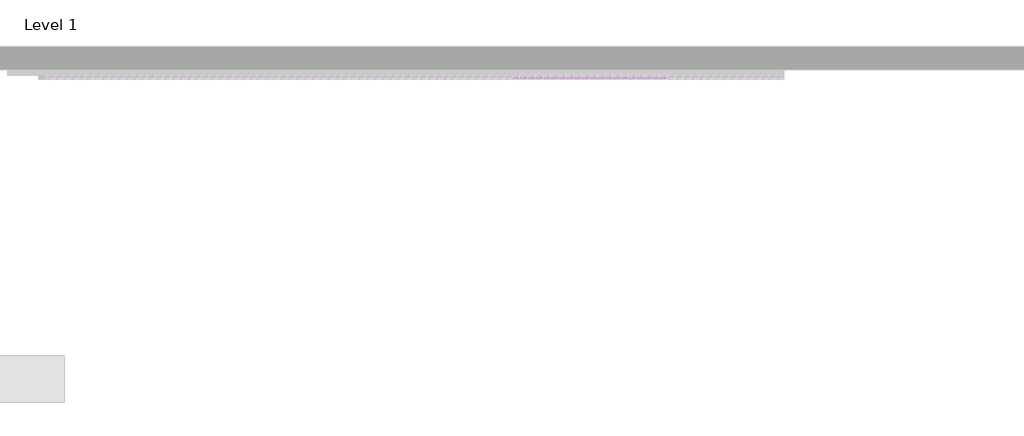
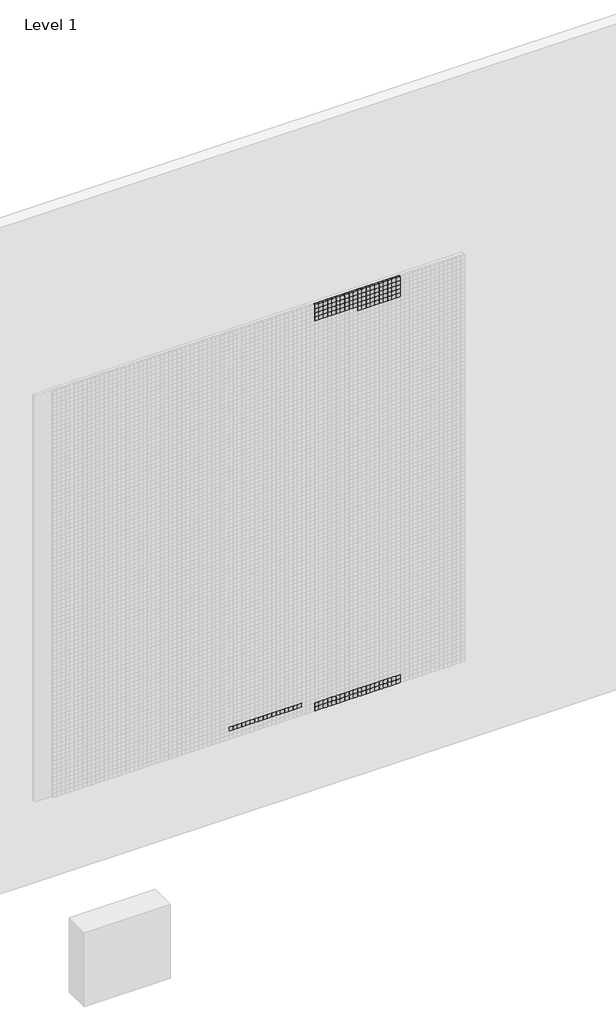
# One storey, part 48 of 71: 147 proxies.
"""IFC4 building model written with IfcOpenShell, lengths in millimetres."""

from ifc_helpers import new_model, si_unit, origin, place, context, project, spatial, transform, mapped, element, save
from components import generic_models_afde289c

model = new_model("IFC4")

# Units and contexts
model_context = context("Model", 3, world=origin())
ifc_project = project(units=[si_unit("LENGTHUNIT", "METRE", prefix="MILLI")], contexts=[model_context])

# Site, building, storey
site = spatial("IfcSite", under=ifc_project)
building = spatial("IfcBuilding", under=site)
storey = spatial("IfcBuildingStorey", under=building, Name="Level 1", Elevation=0.0)

# Proxies
placement = place(None, origin())
generic_models_shape = generic_models_afde289c(model_context)
element("IfcBuildingElementProxy", 1, Name="Pixel_M : Pixel_M", ObjectType="Pixel_M : Pixel_M", at=placement, inside=storey, context=model_context, shape_type="MappedRepresentation", body=[
    mapped(generic_models_shape, transform((8962.4280941, -75.0, 1016.3566215), x_axis=(1.0, 0.0, 0.0), y_axis=(0.0, 0.0, 1.0), z_axis=(0.0, -1.0, 0.0))),
])
element("IfcBuildingElementProxy", 2, Name="Pixel_M : Pixel_M", ObjectType="Pixel_M : Pixel_M", at=placement, inside=storey, context=model_context, shape_type="MappedRepresentation", body=[
    mapped(generic_models_shape, transform((8912.4280941, -75.0, 1016.3566215), x_axis=(1.0, 0.0, 0.0), y_axis=(0.0, 0.0, 1.0), z_axis=(0.0, -1.0, 0.0))),
])
element("IfcBuildingElementProxy", 3, Name="Pixel_M : Pixel_M", ObjectType="Pixel_M : Pixel_M", at=placement, inside=storey, context=model_context, shape_type="MappedRepresentation", body=[
    mapped(generic_models_shape, transform((8862.4280941, -75.0, 1016.3566215), x_axis=(1.0, 0.0, 0.0), y_axis=(0.0, 0.0, 1.0), z_axis=(0.0, -1.0, 0.0))),
])
element("IfcBuildingElementProxy", 4, Name="Pixel_M : Pixel_M", ObjectType="Pixel_M : Pixel_M", at=placement, inside=storey, context=model_context, shape_type="MappedRepresentation", body=[
    mapped(generic_models_shape, transform((8812.4280941, -75.0, 1016.3566215), x_axis=(1.0, 0.0, 0.0), y_axis=(0.0, 0.0, 1.0), z_axis=(0.0, -1.0, 0.0))),
])
element("IfcBuildingElementProxy", 5, Name="Pixel_M : Pixel_M", ObjectType="Pixel_M : Pixel_M", at=placement, inside=storey, context=model_context, shape_type="MappedRepresentation", body=[
    mapped(generic_models_shape, transform((8762.4280941, -75.0, 1016.3566215), x_axis=(1.0, 0.0, 0.0), y_axis=(0.0, 0.0, 1.0), z_axis=(0.0, -1.0, 0.0))),
])
element("IfcBuildingElementProxy", 6, Name="Pixel_M : Pixel_M", ObjectType="Pixel_M : Pixel_M", at=placement, inside=storey, context=model_context, shape_type="MappedRepresentation", body=[
    mapped(generic_models_shape, transform((8712.4280941, -75.0, 1016.3566215), x_axis=(1.0, 0.0, 0.0), y_axis=(0.0, 0.0, 1.0), z_axis=(0.0, -1.0, 0.0))),
])
element("IfcBuildingElementProxy", 7, Name="Pixel_M : Pixel_M", ObjectType="Pixel_M : Pixel_M", at=placement, inside=storey, context=model_context, shape_type="MappedRepresentation", body=[
    mapped(generic_models_shape, transform((8662.4280941, -75.0, 1016.3566215), x_axis=(1.0, 0.0, 0.0), y_axis=(0.0, 0.0, 1.0), z_axis=(0.0, -1.0, 0.0))),
])
element("IfcBuildingElementProxy", 8, Name="Pixel_M : Pixel_M", ObjectType="Pixel_M : Pixel_M", at=placement, inside=storey, context=model_context, shape_type="MappedRepresentation", body=[
    mapped(generic_models_shape, transform((8612.4280941, -75.0, 1016.3566215), x_axis=(1.0, 0.0, 0.0), y_axis=(0.0, 0.0, 1.0), z_axis=(0.0, -1.0, 0.0))),
])
element("IfcBuildingElementProxy", 9, Name="Pixel_M : Pixel_M", ObjectType="Pixel_M : Pixel_M", at=placement, inside=storey, context=model_context, shape_type="MappedRepresentation", body=[
    mapped(generic_models_shape, transform((8562.4280941, -75.0, 1016.3566215), x_axis=(1.0, 0.0, 0.0), y_axis=(0.0, 0.0, 1.0), z_axis=(0.0, -1.0, 0.0))),
])
element("IfcBuildingElementProxy", 10, Name="Pixel_M : Pixel_M", ObjectType="Pixel_M : Pixel_M", at=placement, inside=storey, context=model_context, shape_type="MappedRepresentation", body=[
    mapped(generic_models_shape, transform((8512.4280941, -75.0, 1016.3566215), x_axis=(1.0, 0.0, 0.0), y_axis=(0.0, 0.0, 1.0), z_axis=(0.0, -1.0, 0.0))),
])
element("IfcBuildingElementProxy", 11, Name="Pixel_M : Pixel_M", ObjectType="Pixel_M : Pixel_M", at=placement, inside=storey, context=model_context, shape_type="MappedRepresentation", body=[
    mapped(generic_models_shape, transform((8462.4280941, -75.0, 1016.3566215), x_axis=(1.0, 0.0, 0.0), y_axis=(0.0, 0.0, 1.0), z_axis=(0.0, -1.0, 0.0))),
])
element("IfcBuildingElementProxy", 12, Name="Pixel_M : Pixel_M", ObjectType="Pixel_M : Pixel_M", at=placement, inside=storey, context=model_context, shape_type="MappedRepresentation", body=[
    mapped(generic_models_shape, transform((8412.4280941, -75.0, 1016.3566215), x_axis=(1.0, 0.0, 0.0), y_axis=(0.0, 0.0, 1.0), z_axis=(0.0, -1.0, 0.0))),
])
element("IfcBuildingElementProxy", 13, Name="Pixel_M : Pixel_M", ObjectType="Pixel_M : Pixel_M", at=placement, inside=storey, context=model_context, shape_type="MappedRepresentation", body=[
    mapped(generic_models_shape, transform((8362.4280941, -75.0, 1016.3566215), x_axis=(1.0, 0.0, 0.0), y_axis=(0.0, 0.0, 1.0), z_axis=(0.0, -1.0, 0.0))),
])
element("IfcBuildingElementProxy", 14, Name="Pixel_M : Pixel_M", ObjectType="Pixel_M : Pixel_M", at=placement, inside=storey, context=model_context, shape_type="MappedRepresentation", body=[
    mapped(generic_models_shape, transform((8312.4280941, -75.0, 1016.3566215), x_axis=(1.0, 0.0, 0.0), y_axis=(0.0, 0.0, 1.0), z_axis=(0.0, -1.0, 0.0))),
])
element("IfcBuildingElementProxy", 15, Name="Pixel_M : Pixel_M", ObjectType="Pixel_M : Pixel_M", at=placement, inside=storey, context=model_context, shape_type="MappedRepresentation", body=[
    mapped(generic_models_shape, transform((8262.4280941, -75.0, 1016.3566215), x_axis=(1.0, 0.0, 0.0), y_axis=(0.0, 0.0, 1.0), z_axis=(0.0, -1.0, 0.0))),
])
element("IfcBuildingElementProxy", 16, Name="Pixel_M : Pixel_M", ObjectType="Pixel_M : Pixel_M", at=placement, inside=storey, context=model_context, shape_type="MappedRepresentation", body=[
    mapped(generic_models_shape, transform((8212.4280941, -75.0, 1016.3566215), x_axis=(1.0, 0.0, 0.0), y_axis=(0.0, 0.0, 1.0), z_axis=(0.0, -1.0, 0.0))),
])
element("IfcBuildingElementProxy", 17, Name="Pixel_M : Pixel_M", ObjectType="Pixel_M : Pixel_M", at=placement, inside=storey, context=model_context, shape_type="MappedRepresentation", body=[
    mapped(generic_models_shape, transform((8162.4280941, -75.0, 1016.3566215), x_axis=(1.0, 0.0, 0.0), y_axis=(0.0, 0.0, 1.0), z_axis=(0.0, -1.0, 0.0))),
])
element("IfcBuildingElementProxy", 18, Name="Pixel_M : Pixel_M", ObjectType="Pixel_M : Pixel_M", at=placement, inside=storey, context=model_context, shape_type="MappedRepresentation", body=[
    mapped(generic_models_shape, transform((8112.4280941, -75.0, 1016.3566215), x_axis=(1.0, 0.0, 0.0), y_axis=(0.0, 0.0, 1.0), z_axis=(0.0, -1.0, 0.0))),
])
element("IfcBuildingElementProxy", 19, Name="Pixel_M : Pixel_M", ObjectType="Pixel_M : Pixel_M", at=placement, inside=storey, context=model_context, shape_type="MappedRepresentation", body=[
    mapped(generic_models_shape, transform((8062.4280941, -75.0, 1016.3566215), x_axis=(1.0, 0.0, 0.0), y_axis=(0.0, 0.0, 1.0), z_axis=(0.0, -1.0, 0.0))),
])
element("IfcBuildingElementProxy", 20, Name="Pixel_M : Pixel_M", ObjectType="Pixel_M : Pixel_M", at=placement, inside=storey, context=model_context, shape_type="MappedRepresentation", body=[
    mapped(generic_models_shape, transform((8012.4280941, -75.0, 1016.3566215), x_axis=(1.0, 0.0, 0.0), y_axis=(0.0, 0.0, 1.0), z_axis=(0.0, -1.0, 0.0))),
])
element("IfcBuildingElementProxy", 21, Name="Pixel_M : Pixel_M", ObjectType="Pixel_M : Pixel_M", at=placement, inside=storey, context=model_context, shape_type="MappedRepresentation", body=[
    mapped(generic_models_shape, transform((8962.4280941, -75.0, 1066.3566215), x_axis=(1.0, 0.0, 0.0), y_axis=(0.0, 0.0, 1.0), z_axis=(0.0, -1.0, 0.0))),
])
element("IfcBuildingElementProxy", 22, Name="Pixel_M : Pixel_M", ObjectType="Pixel_M : Pixel_M", at=placement, inside=storey, context=model_context, shape_type="MappedRepresentation", body=[
    mapped(generic_models_shape, transform((8912.4280941, -75.0, 1066.3566215), x_axis=(1.0, 0.0, 0.0), y_axis=(0.0, 0.0, 1.0), z_axis=(0.0, -1.0, 0.0))),
])
element("IfcBuildingElementProxy", 23, Name="Pixel_M : Pixel_M", ObjectType="Pixel_M : Pixel_M", at=placement, inside=storey, context=model_context, shape_type="MappedRepresentation", body=[
    mapped(generic_models_shape, transform((8862.4280941, -75.0, 1066.3566215), x_axis=(1.0, 0.0, 0.0), y_axis=(0.0, 0.0, 1.0), z_axis=(0.0, -1.0, 0.0))),
])
element("IfcBuildingElementProxy", 24, Name="Pixel_M : Pixel_M", ObjectType="Pixel_M : Pixel_M", at=placement, inside=storey, context=model_context, shape_type="MappedRepresentation", body=[
    mapped(generic_models_shape, transform((8812.4280941, -75.0, 1066.3566215), x_axis=(1.0, 0.0, 0.0), y_axis=(0.0, 0.0, 1.0), z_axis=(0.0, -1.0, 0.0))),
])
element("IfcBuildingElementProxy", 25, Name="Pixel_M : Pixel_M", ObjectType="Pixel_M : Pixel_M", at=placement, inside=storey, context=model_context, shape_type="MappedRepresentation", body=[
    mapped(generic_models_shape, transform((8762.4280941, -75.0, 1066.3566215), x_axis=(1.0, 0.0, 0.0), y_axis=(0.0, 0.0, 1.0), z_axis=(0.0, -1.0, 0.0))),
])
element("IfcBuildingElementProxy", 26, Name="Pixel_M : Pixel_M", ObjectType="Pixel_M : Pixel_M", at=placement, inside=storey, context=model_context, shape_type="MappedRepresentation", body=[
    mapped(generic_models_shape, transform((8712.4280941, -75.0, 1066.3566215), x_axis=(1.0, 0.0, 0.0), y_axis=(0.0, 0.0, 1.0), z_axis=(0.0, -1.0, 0.0))),
])
element("IfcBuildingElementProxy", 27, Name="Pixel_M : Pixel_M", ObjectType="Pixel_M : Pixel_M", at=placement, inside=storey, context=model_context, shape_type="MappedRepresentation", body=[
    mapped(generic_models_shape, transform((8662.4280941, -75.0, 1066.3566215), x_axis=(1.0, 0.0, 0.0), y_axis=(0.0, 0.0, 1.0), z_axis=(0.0, -1.0, 0.0))),
])
element("IfcBuildingElementProxy", 28, Name="Pixel_M : Pixel_M", ObjectType="Pixel_M : Pixel_M", at=placement, inside=storey, context=model_context, shape_type="MappedRepresentation", body=[
    mapped(generic_models_shape, transform((8612.4280941, -75.0, 1066.3566215), x_axis=(1.0, 0.0, 0.0), y_axis=(0.0, 0.0, 1.0), z_axis=(0.0, -1.0, 0.0))),
])
element("IfcBuildingElementProxy", 29, Name="Pixel_M : Pixel_M", ObjectType="Pixel_M : Pixel_M", at=placement, inside=storey, context=model_context, shape_type="MappedRepresentation", body=[
    mapped(generic_models_shape, transform((8562.4280941, -75.0, 1066.3566215), x_axis=(1.0, 0.0, 0.0), y_axis=(0.0, 0.0, 1.0), z_axis=(0.0, -1.0, 0.0))),
])
element("IfcBuildingElementProxy", 30, Name="Pixel_M : Pixel_M", ObjectType="Pixel_M : Pixel_M", at=placement, inside=storey, context=model_context, shape_type="MappedRepresentation", body=[
    mapped(generic_models_shape, transform((8512.4280941, -75.0, 1066.3566215), x_axis=(1.0, 0.0, 0.0), y_axis=(0.0, 0.0, 1.0), z_axis=(0.0, -1.0, 0.0))),
])
element("IfcBuildingElementProxy", 31, Name="Pixel_M : Pixel_M", ObjectType="Pixel_M : Pixel_M", at=placement, inside=storey, context=model_context, shape_type="MappedRepresentation", body=[
    mapped(generic_models_shape, transform((8462.4280941, -75.0, 1066.3566215), x_axis=(1.0, 0.0, 0.0), y_axis=(0.0, 0.0, 1.0), z_axis=(0.0, -1.0, 0.0))),
])
element("IfcBuildingElementProxy", 32, Name="Pixel_M : Pixel_M", ObjectType="Pixel_M : Pixel_M", at=placement, inside=storey, context=model_context, shape_type="MappedRepresentation", body=[
    mapped(generic_models_shape, transform((8412.4280941, -75.0, 1066.3566215), x_axis=(1.0, 0.0, 0.0), y_axis=(0.0, 0.0, 1.0), z_axis=(0.0, -1.0, 0.0))),
])
element("IfcBuildingElementProxy", 33, Name="Pixel_M : Pixel_M", ObjectType="Pixel_M : Pixel_M", at=placement, inside=storey, context=model_context, shape_type="MappedRepresentation", body=[
    mapped(generic_models_shape, transform((8362.4280941, -75.0, 1066.3566215), x_axis=(1.0, 0.0, 0.0), y_axis=(0.0, 0.0, 1.0), z_axis=(0.0, -1.0, 0.0))),
])
element("IfcBuildingElementProxy", 34, Name="Pixel_M : Pixel_M", ObjectType="Pixel_M : Pixel_M", at=placement, inside=storey, context=model_context, shape_type="MappedRepresentation", body=[
    mapped(generic_models_shape, transform((8312.4280941, -75.0, 1066.3566215), x_axis=(1.0, 0.0, 0.0), y_axis=(0.0, 0.0, 1.0), z_axis=(0.0, -1.0, 0.0))),
])
element("IfcBuildingElementProxy", 35, Name="Pixel_M : Pixel_M", ObjectType="Pixel_M : Pixel_M", at=placement, inside=storey, context=model_context, shape_type="MappedRepresentation", body=[
    mapped(generic_models_shape, transform((8262.4280941, -75.0, 1066.3566215), x_axis=(1.0, 0.0, 0.0), y_axis=(0.0, 0.0, 1.0), z_axis=(0.0, -1.0, 0.0))),
])
element("IfcBuildingElementProxy", 36, Name="Pixel_M : Pixel_M", ObjectType="Pixel_M : Pixel_M", at=placement, inside=storey, context=model_context, shape_type="MappedRepresentation", body=[
    mapped(generic_models_shape, transform((8212.4280941, -75.0, 1066.3566215), x_axis=(1.0, 0.0, 0.0), y_axis=(0.0, 0.0, 1.0), z_axis=(0.0, -1.0, 0.0))),
])
element("IfcBuildingElementProxy", 37, Name="Pixel_M : Pixel_M", ObjectType="Pixel_M : Pixel_M", at=placement, inside=storey, context=model_context, shape_type="MappedRepresentation", body=[
    mapped(generic_models_shape, transform((8162.4280941, -75.0, 1066.3566215), x_axis=(1.0, 0.0, 0.0), y_axis=(0.0, 0.0, 1.0), z_axis=(0.0, -1.0, 0.0))),
])
element("IfcBuildingElementProxy", 38, Name="Pixel_M : Pixel_M", ObjectType="Pixel_M : Pixel_M", at=placement, inside=storey, context=model_context, shape_type="MappedRepresentation", body=[
    mapped(generic_models_shape, transform((8112.4280941, -75.0, 1066.3566215), x_axis=(1.0, 0.0, 0.0), y_axis=(0.0, 0.0, 1.0), z_axis=(0.0, -1.0, 0.0))),
])
element("IfcBuildingElementProxy", 39, Name="Pixel_M : Pixel_M", ObjectType="Pixel_M : Pixel_M", at=placement, inside=storey, context=model_context, shape_type="MappedRepresentation", body=[
    mapped(generic_models_shape, transform((8062.4280941, -75.0, 1066.3566215), x_axis=(1.0, 0.0, 0.0), y_axis=(0.0, 0.0, 1.0), z_axis=(0.0, -1.0, 0.0))),
])
element("IfcBuildingElementProxy", 40, Name="Pixel_M : Pixel_M", ObjectType="Pixel_M : Pixel_M", at=placement, inside=storey, context=model_context, shape_type="MappedRepresentation", body=[
    mapped(generic_models_shape, transform((8012.4280941, -75.0, 1066.3566215), x_axis=(1.0, 0.0, 0.0), y_axis=(0.0, 0.0, 1.0), z_axis=(0.0, -1.0, 0.0))),
])
element("IfcBuildingElementProxy", 41, Name="Pixel_M : Pixel_M", ObjectType="Pixel_M : Pixel_M", at=placement, inside=storey, context=model_context, shape_type="MappedRepresentation", body=[
    mapped(generic_models_shape, transform((8962.4280941, -75.0, 5966.3566215), x_axis=(1.0, 0.0, 0.0), y_axis=(0.0, 0.0, 1.0), z_axis=(0.0, -1.0, 0.0))),
])
element("IfcBuildingElementProxy", 42, Name="Pixel_M : Pixel_M", ObjectType="Pixel_M : Pixel_M", at=placement, inside=storey, context=model_context, shape_type="MappedRepresentation", body=[
    mapped(generic_models_shape, transform((8912.4280941, -75.0, 5966.3566215), x_axis=(1.0, 0.0, 0.0), y_axis=(0.0, 0.0, 1.0), z_axis=(0.0, -1.0, 0.0))),
])
element("IfcBuildingElementProxy", 43, Name="Pixel_M : Pixel_M", ObjectType="Pixel_M : Pixel_M", at=placement, inside=storey, context=model_context, shape_type="MappedRepresentation", body=[
    mapped(generic_models_shape, transform((8862.4280941, -75.0, 5966.3566215), x_axis=(1.0, 0.0, 0.0), y_axis=(0.0, 0.0, 1.0), z_axis=(0.0, -1.0, 0.0))),
])
element("IfcBuildingElementProxy", 44, Name="Pixel_M : Pixel_M", ObjectType="Pixel_M : Pixel_M", at=placement, inside=storey, context=model_context, shape_type="MappedRepresentation", body=[
    mapped(generic_models_shape, transform((8812.4280941, -75.0, 5966.3566215), x_axis=(1.0, 0.0, 0.0), y_axis=(0.0, 0.0, 1.0), z_axis=(0.0, -1.0, 0.0))),
])
element("IfcBuildingElementProxy", 45, Name="Pixel_M : Pixel_M", ObjectType="Pixel_M : Pixel_M", at=placement, inside=storey, context=model_context, shape_type="MappedRepresentation", body=[
    mapped(generic_models_shape, transform((8762.4280941, -75.0, 5966.3566215), x_axis=(1.0, 0.0, 0.0), y_axis=(0.0, 0.0, 1.0), z_axis=(0.0, -1.0, 0.0))),
])
element("IfcBuildingElementProxy", 46, Name="Pixel_M : Pixel_M", ObjectType="Pixel_M : Pixel_M", at=placement, inside=storey, context=model_context, shape_type="MappedRepresentation", body=[
    mapped(generic_models_shape, transform((8712.4280941, -75.0, 5966.3566215), x_axis=(1.0, 0.0, 0.0), y_axis=(0.0, 0.0, 1.0), z_axis=(0.0, -1.0, 0.0))),
])
element("IfcBuildingElementProxy", 47, Name="Pixel_M : Pixel_M", ObjectType="Pixel_M : Pixel_M", at=placement, inside=storey, context=model_context, shape_type="MappedRepresentation", body=[
    mapped(generic_models_shape, transform((8662.4280941, -75.0, 5966.3566215), x_axis=(1.0, 0.0, 0.0), y_axis=(0.0, 0.0, 1.0), z_axis=(0.0, -1.0, 0.0))),
])
element("IfcBuildingElementProxy", 48, Name="Pixel_M : Pixel_M", ObjectType="Pixel_M : Pixel_M", at=placement, inside=storey, context=model_context, shape_type="MappedRepresentation", body=[
    mapped(generic_models_shape, transform((8612.4280941, -75.0, 5966.3566215), x_axis=(1.0, 0.0, 0.0), y_axis=(0.0, 0.0, 1.0), z_axis=(0.0, -1.0, 0.0))),
])
element("IfcBuildingElementProxy", 49, Name="Pixel_M : Pixel_M", ObjectType="Pixel_M : Pixel_M", at=placement, inside=storey, context=model_context, shape_type="MappedRepresentation", body=[
    mapped(generic_models_shape, transform((8562.4280941, -75.0, 5966.3566215), x_axis=(1.0, 0.0, 0.0), y_axis=(0.0, 0.0, 1.0), z_axis=(0.0, -1.0, 0.0))),
])
element("IfcBuildingElementProxy", 50, Name="Pixel_M : Pixel_M", ObjectType="Pixel_M : Pixel_M", at=placement, inside=storey, context=model_context, shape_type="MappedRepresentation", body=[
    mapped(generic_models_shape, transform((8512.4280941, -75.0, 5966.3566215), x_axis=(1.0, 0.0, 0.0), y_axis=(0.0, 0.0, 1.0), z_axis=(0.0, -1.0, 0.0))),
])
element("IfcBuildingElementProxy", 51, Name="Pixel_M : Pixel_M", ObjectType="Pixel_M : Pixel_M", at=placement, inside=storey, context=model_context, shape_type="MappedRepresentation", body=[
    mapped(generic_models_shape, transform((8462.4280941, -75.0, 5966.3566215), x_axis=(1.0, 0.0, 0.0), y_axis=(0.0, 0.0, 1.0), z_axis=(0.0, -1.0, 0.0))),
])
element("IfcBuildingElementProxy", 52, Name="Pixel_M : Pixel_M", ObjectType="Pixel_M : Pixel_M", at=placement, inside=storey, context=model_context, shape_type="MappedRepresentation", body=[
    mapped(generic_models_shape, transform((8412.4280941, -75.0, 5966.3566215), x_axis=(1.0, 0.0, 0.0), y_axis=(0.0, 0.0, 1.0), z_axis=(0.0, -1.0, 0.0))),
])
element("IfcBuildingElementProxy", 53, Name="Pixel_M : Pixel_M", ObjectType="Pixel_M : Pixel_M", at=placement, inside=storey, context=model_context, shape_type="MappedRepresentation", body=[
    mapped(generic_models_shape, transform((8362.4280941, -75.0, 5966.3566215), x_axis=(1.0, 0.0, 0.0), y_axis=(0.0, 0.0, 1.0), z_axis=(0.0, -1.0, 0.0))),
])
element("IfcBuildingElementProxy", 54, Name="Pixel_M : Pixel_M", ObjectType="Pixel_M : Pixel_M", at=placement, inside=storey, context=model_context, shape_type="MappedRepresentation", body=[
    mapped(generic_models_shape, transform((8312.4280941, -75.0, 5966.3566215), x_axis=(1.0, 0.0, 0.0), y_axis=(0.0, 0.0, 1.0), z_axis=(0.0, -1.0, 0.0))),
])
element("IfcBuildingElementProxy", 55, Name="Pixel_M : Pixel_M", ObjectType="Pixel_M : Pixel_M", at=placement, inside=storey, context=model_context, shape_type="MappedRepresentation", body=[
    mapped(generic_models_shape, transform((8262.4280941, -75.0, 5966.3566215), x_axis=(1.0, 0.0, 0.0), y_axis=(0.0, 0.0, 1.0), z_axis=(0.0, -1.0, 0.0))),
])
element("IfcBuildingElementProxy", 56, Name="Pixel_M : Pixel_M", ObjectType="Pixel_M : Pixel_M", at=placement, inside=storey, context=model_context, shape_type="MappedRepresentation", body=[
    mapped(generic_models_shape, transform((8212.4280941, -75.0, 5966.3566215), x_axis=(1.0, 0.0, 0.0), y_axis=(0.0, 0.0, 1.0), z_axis=(0.0, -1.0, 0.0))),
])
element("IfcBuildingElementProxy", 57, Name="Pixel_M : Pixel_M", ObjectType="Pixel_M : Pixel_M", at=placement, inside=storey, context=model_context, shape_type="MappedRepresentation", body=[
    mapped(generic_models_shape, transform((8162.4280941, -75.0, 5966.3566215), x_axis=(1.0, 0.0, 0.0), y_axis=(0.0, 0.0, 1.0), z_axis=(0.0, -1.0, 0.0))),
])
element("IfcBuildingElementProxy", 58, Name="Pixel_M : Pixel_M", ObjectType="Pixel_M : Pixel_M", at=placement, inside=storey, context=model_context, shape_type="MappedRepresentation", body=[
    mapped(generic_models_shape, transform((8112.4280941, -75.0, 5966.3566215), x_axis=(1.0, 0.0, 0.0), y_axis=(0.0, 0.0, 1.0), z_axis=(0.0, -1.0, 0.0))),
])
element("IfcBuildingElementProxy", 59, Name="Pixel_M : Pixel_M", ObjectType="Pixel_M : Pixel_M", at=placement, inside=storey, context=model_context, shape_type="MappedRepresentation", body=[
    mapped(generic_models_shape, transform((8062.4280941, -75.0, 5966.3566215), x_axis=(1.0, 0.0, 0.0), y_axis=(0.0, 0.0, 1.0), z_axis=(0.0, -1.0, 0.0))),
])
element("IfcBuildingElementProxy", 60, Name="Pixel_M : Pixel_M", ObjectType="Pixel_M : Pixel_M", at=placement, inside=storey, context=model_context, shape_type="MappedRepresentation", body=[
    mapped(generic_models_shape, transform((8012.4280941, -75.0, 5966.3566215), x_axis=(1.0, 0.0, 0.0), y_axis=(0.0, 0.0, 1.0), z_axis=(0.0, -1.0, 0.0))),
])
element("IfcBuildingElementProxy", 61, Name="Pixel_M : Pixel_M", ObjectType="Pixel_M : Pixel_M", at=placement, inside=storey, context=model_context, shape_type="MappedRepresentation", body=[
    mapped(generic_models_shape, transform((8962.4280941, -75.0, 5916.3566215), x_axis=(1.0, 0.0, 0.0), y_axis=(0.0, 0.0, 1.0), z_axis=(0.0, -1.0, 0.0))),
])
element("IfcBuildingElementProxy", 62, Name="Pixel_M : Pixel_M", ObjectType="Pixel_M : Pixel_M", at=placement, inside=storey, context=model_context, shape_type="MappedRepresentation", body=[
    mapped(generic_models_shape, transform((8912.4280941, -75.0, 5916.3566215), x_axis=(1.0, 0.0, 0.0), y_axis=(0.0, 0.0, 1.0), z_axis=(0.0, -1.0, 0.0))),
])
element("IfcBuildingElementProxy", 63, Name="Pixel_M : Pixel_M", ObjectType="Pixel_M : Pixel_M", at=placement, inside=storey, context=model_context, shape_type="MappedRepresentation", body=[
    mapped(generic_models_shape, transform((8862.4280941, -75.0, 5916.3566215), x_axis=(1.0, 0.0, 0.0), y_axis=(0.0, 0.0, 1.0), z_axis=(0.0, -1.0, 0.0))),
])
element("IfcBuildingElementProxy", 64, Name="Pixel_M : Pixel_M", ObjectType="Pixel_M : Pixel_M", at=placement, inside=storey, context=model_context, shape_type="MappedRepresentation", body=[
    mapped(generic_models_shape, transform((8812.4280941, -75.0, 5916.3566215), x_axis=(1.0, 0.0, 0.0), y_axis=(0.0, 0.0, 1.0), z_axis=(0.0, -1.0, 0.0))),
])
element("IfcBuildingElementProxy", 65, Name="Pixel_M : Pixel_M", ObjectType="Pixel_M : Pixel_M", at=placement, inside=storey, context=model_context, shape_type="MappedRepresentation", body=[
    mapped(generic_models_shape, transform((8762.4280941, -75.0, 5916.3566215), x_axis=(1.0, 0.0, 0.0), y_axis=(0.0, 0.0, 1.0), z_axis=(0.0, -1.0, 0.0))),
])
element("IfcBuildingElementProxy", 66, Name="Pixel_M : Pixel_M", ObjectType="Pixel_M : Pixel_M", at=placement, inside=storey, context=model_context, shape_type="MappedRepresentation", body=[
    mapped(generic_models_shape, transform((8712.4280941, -75.0, 5916.3566215), x_axis=(1.0, 0.0, 0.0), y_axis=(0.0, 0.0, 1.0), z_axis=(0.0, -1.0, 0.0))),
])
element("IfcBuildingElementProxy", 67, Name="Pixel_M : Pixel_M", ObjectType="Pixel_M : Pixel_M", at=placement, inside=storey, context=model_context, shape_type="MappedRepresentation", body=[
    mapped(generic_models_shape, transform((8662.4280941, -75.0, 5916.3566215), x_axis=(1.0, 0.0, 0.0), y_axis=(0.0, 0.0, 1.0), z_axis=(0.0, -1.0, 0.0))),
])
element("IfcBuildingElementProxy", 68, Name="Pixel_M : Pixel_M", ObjectType="Pixel_M : Pixel_M", at=placement, inside=storey, context=model_context, shape_type="MappedRepresentation", body=[
    mapped(generic_models_shape, transform((8612.4280941, -75.0, 5916.3566215), x_axis=(1.0, 0.0, 0.0), y_axis=(0.0, 0.0, 1.0), z_axis=(0.0, -1.0, 0.0))),
])
element("IfcBuildingElementProxy", 69, Name="Pixel_M : Pixel_M", ObjectType="Pixel_M : Pixel_M", at=placement, inside=storey, context=model_context, shape_type="MappedRepresentation", body=[
    mapped(generic_models_shape, transform((8562.4280941, -75.0, 5916.3566215), x_axis=(1.0, 0.0, 0.0), y_axis=(0.0, 0.0, 1.0), z_axis=(0.0, -1.0, 0.0))),
])
element("IfcBuildingElementProxy", 70, Name="Pixel_M : Pixel_M", ObjectType="Pixel_M : Pixel_M", at=placement, inside=storey, context=model_context, shape_type="MappedRepresentation", body=[
    mapped(generic_models_shape, transform((8512.4280941, -75.0, 5916.3566215), x_axis=(1.0, 0.0, 0.0), y_axis=(0.0, 0.0, 1.0), z_axis=(0.0, -1.0, 0.0))),
])
element("IfcBuildingElementProxy", 71, Name="Pixel_M : Pixel_M", ObjectType="Pixel_M : Pixel_M", at=placement, inside=storey, context=model_context, shape_type="MappedRepresentation", body=[
    mapped(generic_models_shape, transform((8462.4280941, -75.0, 5916.3566215), x_axis=(1.0, 0.0, 0.0), y_axis=(0.0, 0.0, 1.0), z_axis=(0.0, -1.0, 0.0))),
])
element("IfcBuildingElementProxy", 72, Name="Pixel_M : Pixel_M", ObjectType="Pixel_M : Pixel_M", at=placement, inside=storey, context=model_context, shape_type="MappedRepresentation", body=[
    mapped(generic_models_shape, transform((8412.4280941, -75.0, 5916.3566215), x_axis=(1.0, 0.0, 0.0), y_axis=(0.0, 0.0, 1.0), z_axis=(0.0, -1.0, 0.0))),
])
element("IfcBuildingElementProxy", 73, Name="Pixel_M : Pixel_M", ObjectType="Pixel_M : Pixel_M", at=placement, inside=storey, context=model_context, shape_type="MappedRepresentation", body=[
    mapped(generic_models_shape, transform((8362.4280941, -75.0, 5916.3566215), x_axis=(1.0, 0.0, 0.0), y_axis=(0.0, 0.0, 1.0), z_axis=(0.0, -1.0, 0.0))),
])
element("IfcBuildingElementProxy", 74, Name="Pixel_M : Pixel_M", ObjectType="Pixel_M : Pixel_M", at=placement, inside=storey, context=model_context, shape_type="MappedRepresentation", body=[
    mapped(generic_models_shape, transform((8312.4280941, -75.0, 5916.3566215), x_axis=(1.0, 0.0, 0.0), y_axis=(0.0, 0.0, 1.0), z_axis=(0.0, -1.0, 0.0))),
])
element("IfcBuildingElementProxy", 75, Name="Pixel_M : Pixel_M", ObjectType="Pixel_M : Pixel_M", at=placement, inside=storey, context=model_context, shape_type="MappedRepresentation", body=[
    mapped(generic_models_shape, transform((8262.4280941, -75.0, 5916.3566215), x_axis=(1.0, 0.0, 0.0), y_axis=(0.0, 0.0, 1.0), z_axis=(0.0, -1.0, 0.0))),
])
element("IfcBuildingElementProxy", 76, Name="Pixel_M : Pixel_M", ObjectType="Pixel_M : Pixel_M", at=placement, inside=storey, context=model_context, shape_type="MappedRepresentation", body=[
    mapped(generic_models_shape, transform((8212.4280941, -75.0, 5916.3566215), x_axis=(1.0, 0.0, 0.0), y_axis=(0.0, 0.0, 1.0), z_axis=(0.0, -1.0, 0.0))),
])
element("IfcBuildingElementProxy", 77, Name="Pixel_M : Pixel_M", ObjectType="Pixel_M : Pixel_M", at=placement, inside=storey, context=model_context, shape_type="MappedRepresentation", body=[
    mapped(generic_models_shape, transform((8162.4280941, -75.0, 5916.3566215), x_axis=(1.0, 0.0, 0.0), y_axis=(0.0, 0.0, 1.0), z_axis=(0.0, -1.0, 0.0))),
])
element("IfcBuildingElementProxy", 78, Name="Pixel_M : Pixel_M", ObjectType="Pixel_M : Pixel_M", at=placement, inside=storey, context=model_context, shape_type="MappedRepresentation", body=[
    mapped(generic_models_shape, transform((8112.4280941, -75.0, 5916.3566215), x_axis=(1.0, 0.0, 0.0), y_axis=(0.0, 0.0, 1.0), z_axis=(0.0, -1.0, 0.0))),
])
element("IfcBuildingElementProxy", 79, Name="Pixel_M : Pixel_M", ObjectType="Pixel_M : Pixel_M", at=placement, inside=storey, context=model_context, shape_type="MappedRepresentation", body=[
    mapped(generic_models_shape, transform((8062.4280941, -75.0, 5916.3566215), x_axis=(1.0, 0.0, 0.0), y_axis=(0.0, 0.0, 1.0), z_axis=(0.0, -1.0, 0.0))),
])
element("IfcBuildingElementProxy", 80, Name="Pixel_M : Pixel_M", ObjectType="Pixel_M : Pixel_M", at=placement, inside=storey, context=model_context, shape_type="MappedRepresentation", body=[
    mapped(generic_models_shape, transform((8012.4280941, -75.0, 5916.3566215), x_axis=(1.0, 0.0, 0.0), y_axis=(0.0, 0.0, 1.0), z_axis=(0.0, -1.0, 0.0))),
])
element("IfcBuildingElementProxy", 81, Name="Pixel_M : Pixel_M", ObjectType="Pixel_M : Pixel_M", at=placement, inside=storey, context=model_context, shape_type="MappedRepresentation", body=[
    mapped(generic_models_shape, transform((8962.4280941, -75.0, 5866.3566215), x_axis=(1.0, 0.0, 0.0), y_axis=(0.0, 0.0, 1.0), z_axis=(0.0, -1.0, 0.0))),
])
element("IfcBuildingElementProxy", 82, Name="Pixel_M : Pixel_M", ObjectType="Pixel_M : Pixel_M", at=placement, inside=storey, context=model_context, shape_type="MappedRepresentation", body=[
    mapped(generic_models_shape, transform((8912.4280941, -75.0, 5866.3566215), x_axis=(1.0, 0.0, 0.0), y_axis=(0.0, 0.0, 1.0), z_axis=(0.0, -1.0, 0.0))),
])
element("IfcBuildingElementProxy", 83, Name="Pixel_M : Pixel_M", ObjectType="Pixel_M : Pixel_M", at=placement, inside=storey, context=model_context, shape_type="MappedRepresentation", body=[
    mapped(generic_models_shape, transform((8862.4280941, -75.0, 5866.3566215), x_axis=(1.0, 0.0, 0.0), y_axis=(0.0, 0.0, 1.0), z_axis=(0.0, -1.0, 0.0))),
])
element("IfcBuildingElementProxy", 84, Name="Pixel_M : Pixel_M", ObjectType="Pixel_M : Pixel_M", at=placement, inside=storey, context=model_context, shape_type="MappedRepresentation", body=[
    mapped(generic_models_shape, transform((8812.4280941, -75.0, 5866.3566215), x_axis=(1.0, 0.0, 0.0), y_axis=(0.0, 0.0, 1.0), z_axis=(0.0, -1.0, 0.0))),
])
element("IfcBuildingElementProxy", 85, Name="Pixel_M : Pixel_M", ObjectType="Pixel_M : Pixel_M", at=placement, inside=storey, context=model_context, shape_type="MappedRepresentation", body=[
    mapped(generic_models_shape, transform((8762.4280941, -75.0, 5866.3566215), x_axis=(1.0, 0.0, 0.0), y_axis=(0.0, 0.0, 1.0), z_axis=(0.0, -1.0, 0.0))),
])
element("IfcBuildingElementProxy", 86, Name="Pixel_M : Pixel_M", ObjectType="Pixel_M : Pixel_M", at=placement, inside=storey, context=model_context, shape_type="MappedRepresentation", body=[
    mapped(generic_models_shape, transform((8712.4280941, -75.0, 5866.3566215), x_axis=(1.0, 0.0, 0.0), y_axis=(0.0, 0.0, 1.0), z_axis=(0.0, -1.0, 0.0))),
])
element("IfcBuildingElementProxy", 87, Name="Pixel_M : Pixel_M", ObjectType="Pixel_M : Pixel_M", at=placement, inside=storey, context=model_context, shape_type="MappedRepresentation", body=[
    mapped(generic_models_shape, transform((8662.4280941, -75.0, 5866.3566215), x_axis=(1.0, 0.0, 0.0), y_axis=(0.0, 0.0, 1.0), z_axis=(0.0, -1.0, 0.0))),
])
element("IfcBuildingElementProxy", 88, Name="Pixel_M : Pixel_M", ObjectType="Pixel_M : Pixel_M", at=placement, inside=storey, context=model_context, shape_type="MappedRepresentation", body=[
    mapped(generic_models_shape, transform((8612.4280941, -75.0, 5866.3566215), x_axis=(1.0, 0.0, 0.0), y_axis=(0.0, 0.0, 1.0), z_axis=(0.0, -1.0, 0.0))),
])
element("IfcBuildingElementProxy", 89, Name="Pixel_M : Pixel_M", ObjectType="Pixel_M : Pixel_M", at=placement, inside=storey, context=model_context, shape_type="MappedRepresentation", body=[
    mapped(generic_models_shape, transform((8562.4280941, -75.0, 5866.3566215), x_axis=(1.0, 0.0, 0.0), y_axis=(0.0, 0.0, 1.0), z_axis=(0.0, -1.0, 0.0))),
])
element("IfcBuildingElementProxy", 90, Name="Pixel_M : Pixel_M", ObjectType="Pixel_M : Pixel_M", at=placement, inside=storey, context=model_context, shape_type="MappedRepresentation", body=[
    mapped(generic_models_shape, transform((8512.4280941, -75.0, 5866.3566215), x_axis=(1.0, 0.0, 0.0), y_axis=(0.0, 0.0, 1.0), z_axis=(0.0, -1.0, 0.0))),
])
element("IfcBuildingElementProxy", 91, Name="Pixel_M : Pixel_M", ObjectType="Pixel_M : Pixel_M", at=placement, inside=storey, context=model_context, shape_type="MappedRepresentation", body=[
    mapped(generic_models_shape, transform((8462.4280941, -75.0, 5866.3566215), x_axis=(1.0, 0.0, 0.0), y_axis=(0.0, 0.0, 1.0), z_axis=(0.0, -1.0, 0.0))),
])
element("IfcBuildingElementProxy", 92, Name="Pixel_M : Pixel_M", ObjectType="Pixel_M : Pixel_M", at=placement, inside=storey, context=model_context, shape_type="MappedRepresentation", body=[
    mapped(generic_models_shape, transform((8412.4280941, -75.0, 5866.3566215), x_axis=(1.0, 0.0, 0.0), y_axis=(0.0, 0.0, 1.0), z_axis=(0.0, -1.0, 0.0))),
])
element("IfcBuildingElementProxy", 93, Name="Pixel_M : Pixel_M", ObjectType="Pixel_M : Pixel_M", at=placement, inside=storey, context=model_context, shape_type="MappedRepresentation", body=[
    mapped(generic_models_shape, transform((8362.4280941, -75.0, 5866.3566215), x_axis=(1.0, 0.0, 0.0), y_axis=(0.0, 0.0, 1.0), z_axis=(0.0, -1.0, 0.0))),
])
element("IfcBuildingElementProxy", 94, Name="Pixel_M : Pixel_M", ObjectType="Pixel_M : Pixel_M", at=placement, inside=storey, context=model_context, shape_type="MappedRepresentation", body=[
    mapped(generic_models_shape, transform((8312.4280941, -75.0, 5866.3566215), x_axis=(1.0, 0.0, 0.0), y_axis=(0.0, 0.0, 1.0), z_axis=(0.0, -1.0, 0.0))),
])
element("IfcBuildingElementProxy", 95, Name="Pixel_M : Pixel_M", ObjectType="Pixel_M : Pixel_M", at=placement, inside=storey, context=model_context, shape_type="MappedRepresentation", body=[
    mapped(generic_models_shape, transform((8262.4280941, -75.0, 5866.3566215), x_axis=(1.0, 0.0, 0.0), y_axis=(0.0, 0.0, 1.0), z_axis=(0.0, -1.0, 0.0))),
])
element("IfcBuildingElementProxy", 96, Name="Pixel_M : Pixel_M", ObjectType="Pixel_M : Pixel_M", at=placement, inside=storey, context=model_context, shape_type="MappedRepresentation", body=[
    mapped(generic_models_shape, transform((8212.4280941, -75.0, 5866.3566215), x_axis=(1.0, 0.0, 0.0), y_axis=(0.0, 0.0, 1.0), z_axis=(0.0, -1.0, 0.0))),
])
element("IfcBuildingElementProxy", 97, Name="Pixel_M : Pixel_M", ObjectType="Pixel_M : Pixel_M", at=placement, inside=storey, context=model_context, shape_type="MappedRepresentation", body=[
    mapped(generic_models_shape, transform((8162.4280941, -75.0, 5866.3566215), x_axis=(1.0, 0.0, 0.0), y_axis=(0.0, 0.0, 1.0), z_axis=(0.0, -1.0, 0.0))),
])
element("IfcBuildingElementProxy", 98, Name="Pixel_M : Pixel_M", ObjectType="Pixel_M : Pixel_M", at=placement, inside=storey, context=model_context, shape_type="MappedRepresentation", body=[
    mapped(generic_models_shape, transform((8112.4280941, -75.0, 5866.3566215), x_axis=(1.0, 0.0, 0.0), y_axis=(0.0, 0.0, 1.0), z_axis=(0.0, -1.0, 0.0))),
])
element("IfcBuildingElementProxy", 99, Name="Pixel_M : Pixel_M", ObjectType="Pixel_M : Pixel_M", at=placement, inside=storey, context=model_context, shape_type="MappedRepresentation", body=[
    mapped(generic_models_shape, transform((8062.4280941, -75.0, 5866.3566215), x_axis=(1.0, 0.0, 0.0), y_axis=(0.0, 0.0, 1.0), z_axis=(0.0, -1.0, 0.0))),
])
element("IfcBuildingElementProxy", 100, Name="Pixel_M : Pixel_M", ObjectType="Pixel_M : Pixel_M", at=placement, inside=storey, context=model_context, shape_type="MappedRepresentation", body=[
    mapped(generic_models_shape, transform((8012.4280941, -75.0, 5866.3566215), x_axis=(1.0, 0.0, 0.0), y_axis=(0.0, 0.0, 1.0), z_axis=(0.0, -1.0, 0.0))),
])
element("IfcBuildingElementProxy", 101, Name="Pixel_M : Pixel_M", ObjectType="Pixel_M : Pixel_M", at=placement, inside=storey, context=model_context, shape_type="MappedRepresentation", body=[
    mapped(generic_models_shape, transform((8962.4280941, -75.0, 5816.3566215), x_axis=(1.0, 0.0, 0.0), y_axis=(0.0, 0.0, 1.0), z_axis=(0.0, -1.0, 0.0))),
])
element("IfcBuildingElementProxy", 102, Name="Pixel_M : Pixel_M", ObjectType="Pixel_M : Pixel_M", at=placement, inside=storey, context=model_context, shape_type="MappedRepresentation", body=[
    mapped(generic_models_shape, transform((8912.4280941, -75.0, 5816.3566215), x_axis=(1.0, 0.0, 0.0), y_axis=(0.0, 0.0, 1.0), z_axis=(0.0, -1.0, 0.0))),
])
element("IfcBuildingElementProxy", 103, Name="Pixel_M : Pixel_M", ObjectType="Pixel_M : Pixel_M", at=placement, inside=storey, context=model_context, shape_type="MappedRepresentation", body=[
    mapped(generic_models_shape, transform((8862.4280941, -75.0, 5816.3566215), x_axis=(1.0, 0.0, 0.0), y_axis=(0.0, 0.0, 1.0), z_axis=(0.0, -1.0, 0.0))),
])
element("IfcBuildingElementProxy", 104, Name="Pixel_M : Pixel_M", ObjectType="Pixel_M : Pixel_M", at=placement, inside=storey, context=model_context, shape_type="MappedRepresentation", body=[
    mapped(generic_models_shape, transform((8812.4280941, -75.0, 5816.3566215), x_axis=(1.0, 0.0, 0.0), y_axis=(0.0, 0.0, 1.0), z_axis=(0.0, -1.0, 0.0))),
])
element("IfcBuildingElementProxy", 105, Name="Pixel_M : Pixel_M", ObjectType="Pixel_M : Pixel_M", at=placement, inside=storey, context=model_context, shape_type="MappedRepresentation", body=[
    mapped(generic_models_shape, transform((8762.4280941, -75.0, 5816.3566215), x_axis=(1.0, 0.0, 0.0), y_axis=(0.0, 0.0, 1.0), z_axis=(0.0, -1.0, 0.0))),
])
element("IfcBuildingElementProxy", 106, Name="Pixel_M : Pixel_M", ObjectType="Pixel_M : Pixel_M", at=placement, inside=storey, context=model_context, shape_type="MappedRepresentation", body=[
    mapped(generic_models_shape, transform((8712.4280941, -75.0, 5816.3566215), x_axis=(1.0, 0.0, 0.0), y_axis=(0.0, 0.0, 1.0), z_axis=(0.0, -1.0, 0.0))),
])
element("IfcBuildingElementProxy", 107, Name="Pixel_M : Pixel_M", ObjectType="Pixel_M : Pixel_M", at=placement, inside=storey, context=model_context, shape_type="MappedRepresentation", body=[
    mapped(generic_models_shape, transform((8662.4280941, -75.0, 5816.3566215), x_axis=(1.0, 0.0, 0.0), y_axis=(0.0, 0.0, 1.0), z_axis=(0.0, -1.0, 0.0))),
])
element("IfcBuildingElementProxy", 108, Name="Pixel_M : Pixel_M", ObjectType="Pixel_M : Pixel_M", at=placement, inside=storey, context=model_context, shape_type="MappedRepresentation", body=[
    mapped(generic_models_shape, transform((8612.4280941, -75.0, 5816.3566215), x_axis=(1.0, 0.0, 0.0), y_axis=(0.0, 0.0, 1.0), z_axis=(0.0, -1.0, 0.0))),
])
element("IfcBuildingElementProxy", 109, Name="Pixel_M : Pixel_M", ObjectType="Pixel_M : Pixel_M", at=placement, inside=storey, context=model_context, shape_type="MappedRepresentation", body=[
    mapped(generic_models_shape, transform((8562.4280941, -75.0, 5816.3566215), x_axis=(1.0, 0.0, 0.0), y_axis=(0.0, 0.0, 1.0), z_axis=(0.0, -1.0, 0.0))),
])
element("IfcBuildingElementProxy", 110, Name="Pixel_M : Pixel_M", ObjectType="Pixel_M : Pixel_M", at=placement, inside=storey, context=model_context, shape_type="MappedRepresentation", body=[
    mapped(generic_models_shape, transform((8512.4280941, -75.0, 5816.3566215), x_axis=(1.0, 0.0, 0.0), y_axis=(0.0, 0.0, 1.0), z_axis=(0.0, -1.0, 0.0))),
])
element("IfcBuildingElementProxy", 111, Name="Pixel_M : Pixel_M", ObjectType="Pixel_M : Pixel_M", at=placement, inside=storey, context=model_context, shape_type="MappedRepresentation", body=[
    mapped(generic_models_shape, transform((8462.4280941, -75.0, 5816.3566215), x_axis=(1.0, 0.0, 0.0), y_axis=(0.0, 0.0, 1.0), z_axis=(0.0, -1.0, 0.0))),
])
element("IfcBuildingElementProxy", 112, Name="Pixel_M : Pixel_M", ObjectType="Pixel_M : Pixel_M", at=placement, inside=storey, context=model_context, shape_type="MappedRepresentation", body=[
    mapped(generic_models_shape, transform((8412.4280941, -75.0, 5816.3566215), x_axis=(1.0, 0.0, 0.0), y_axis=(0.0, 0.0, 1.0), z_axis=(0.0, -1.0, 0.0))),
])
element("IfcBuildingElementProxy", 113, Name="Pixel_M : Pixel_M", ObjectType="Pixel_M : Pixel_M", at=placement, inside=storey, context=model_context, shape_type="MappedRepresentation", body=[
    mapped(generic_models_shape, transform((8362.4280941, -75.0, 5816.3566215), x_axis=(1.0, 0.0, 0.0), y_axis=(0.0, 0.0, 1.0), z_axis=(0.0, -1.0, 0.0))),
])
element("IfcBuildingElementProxy", 114, Name="Pixel_M : Pixel_M", ObjectType="Pixel_M : Pixel_M", at=placement, inside=storey, context=model_context, shape_type="MappedRepresentation", body=[
    mapped(generic_models_shape, transform((8312.4280941, -75.0, 5816.3566215), x_axis=(1.0, 0.0, 0.0), y_axis=(0.0, 0.0, 1.0), z_axis=(0.0, -1.0, 0.0))),
])
element("IfcBuildingElementProxy", 115, Name="Pixel_M : Pixel_M", ObjectType="Pixel_M : Pixel_M", at=placement, inside=storey, context=model_context, shape_type="MappedRepresentation", body=[
    mapped(generic_models_shape, transform((8262.4280941, -75.0, 5816.3566215), x_axis=(1.0, 0.0, 0.0), y_axis=(0.0, 0.0, 1.0), z_axis=(0.0, -1.0, 0.0))),
])
element("IfcBuildingElementProxy", 116, Name="Pixel_M : Pixel_M", ObjectType="Pixel_M : Pixel_M", at=placement, inside=storey, context=model_context, shape_type="MappedRepresentation", body=[
    mapped(generic_models_shape, transform((8212.4280941, -75.0, 5816.3566215), x_axis=(1.0, 0.0, 0.0), y_axis=(0.0, 0.0, 1.0), z_axis=(0.0, -1.0, 0.0))),
])
element("IfcBuildingElementProxy", 117, Name="Pixel_M : Pixel_M", ObjectType="Pixel_M : Pixel_M", at=placement, inside=storey, context=model_context, shape_type="MappedRepresentation", body=[
    mapped(generic_models_shape, transform((8162.4280941, -75.0, 5816.3566215), x_axis=(1.0, 0.0, 0.0), y_axis=(0.0, 0.0, 1.0), z_axis=(0.0, -1.0, 0.0))),
])
element("IfcBuildingElementProxy", 118, Name="Pixel_M : Pixel_M", ObjectType="Pixel_M : Pixel_M", at=placement, inside=storey, context=model_context, shape_type="MappedRepresentation", body=[
    mapped(generic_models_shape, transform((8112.4280941, -75.0, 5816.3566215), x_axis=(1.0, 0.0, 0.0), y_axis=(0.0, 0.0, 1.0), z_axis=(0.0, -1.0, 0.0))),
])
element("IfcBuildingElementProxy", 119, Name="Pixel_M : Pixel_M", ObjectType="Pixel_M : Pixel_M", at=placement, inside=storey, context=model_context, shape_type="MappedRepresentation", body=[
    mapped(generic_models_shape, transform((8062.4280941, -75.0, 5816.3566215), x_axis=(1.0, 0.0, 0.0), y_axis=(0.0, 0.0, 1.0), z_axis=(0.0, -1.0, 0.0))),
])
element("IfcBuildingElementProxy", 120, Name="Pixel_M : Pixel_M", ObjectType="Pixel_M : Pixel_M", at=placement, inside=storey, context=model_context, shape_type="MappedRepresentation", body=[
    mapped(generic_models_shape, transform((8012.4280941, -75.0, 5816.3566215), x_axis=(1.0, 0.0, 0.0), y_axis=(0.0, 0.0, 1.0), z_axis=(0.0, -1.0, 0.0))),
])
element("IfcBuildingElementProxy", 121, Name="Pixel_M : Pixel_M", ObjectType="Pixel_M : Pixel_M", at=placement, inside=storey, context=model_context, shape_type="MappedRepresentation", body=[
    mapped(generic_models_shape, transform((8962.4280941, -75.0, 5766.3566215), x_axis=(1.0, 0.0, 0.0), y_axis=(0.0, 0.0, 1.0), z_axis=(0.0, -1.0, 0.0))),
])
element("IfcBuildingElementProxy", 122, Name="Pixel_M : Pixel_M", ObjectType="Pixel_M : Pixel_M", at=placement, inside=storey, context=model_context, shape_type="MappedRepresentation", body=[
    mapped(generic_models_shape, transform((8912.4280941, -75.0, 5766.3566215), x_axis=(1.0, 0.0, 0.0), y_axis=(0.0, 0.0, 1.0), z_axis=(0.0, -1.0, 0.0))),
])
element("IfcBuildingElementProxy", 123, Name="Pixel_M : Pixel_M", ObjectType="Pixel_M : Pixel_M", at=placement, inside=storey, context=model_context, shape_type="MappedRepresentation", body=[
    mapped(generic_models_shape, transform((8862.4280941, -75.0, 5766.3566215), x_axis=(1.0, 0.0, 0.0), y_axis=(0.0, 0.0, 1.0), z_axis=(0.0, -1.0, 0.0))),
])
element("IfcBuildingElementProxy", 124, Name="Pixel_M : Pixel_M", ObjectType="Pixel_M : Pixel_M", at=placement, inside=storey, context=model_context, shape_type="MappedRepresentation", body=[
    mapped(generic_models_shape, transform((8812.4280941, -75.0, 5766.3566215), x_axis=(1.0, 0.0, 0.0), y_axis=(0.0, 0.0, 1.0), z_axis=(0.0, -1.0, 0.0))),
])
element("IfcBuildingElementProxy", 125, Name="Pixel_M : Pixel_M", ObjectType="Pixel_M : Pixel_M", at=placement, inside=storey, context=model_context, shape_type="MappedRepresentation", body=[
    mapped(generic_models_shape, transform((8762.4280941, -75.0, 5766.3566215), x_axis=(1.0, 0.0, 0.0), y_axis=(0.0, 0.0, 1.0), z_axis=(0.0, -1.0, 0.0))),
])
element("IfcBuildingElementProxy", 126, Name="Pixel_M : Pixel_M", ObjectType="Pixel_M : Pixel_M", at=placement, inside=storey, context=model_context, shape_type="MappedRepresentation", body=[
    mapped(generic_models_shape, transform((8712.4280941, -75.0, 5766.3566215), x_axis=(1.0, 0.0, 0.0), y_axis=(0.0, 0.0, 1.0), z_axis=(0.0, -1.0, 0.0))),
])
element("IfcBuildingElementProxy", 127, Name="Pixel_M : Pixel_M", ObjectType="Pixel_M : Pixel_M", at=placement, inside=storey, context=model_context, shape_type="MappedRepresentation", body=[
    mapped(generic_models_shape, transform((8662.4280941, -75.0, 5766.3566215), x_axis=(1.0, 0.0, 0.0), y_axis=(0.0, 0.0, 1.0), z_axis=(0.0, -1.0, 0.0))),
])
element("IfcBuildingElementProxy", 128, Name="Pixel_M : Pixel_M", ObjectType="Pixel_M : Pixel_M", at=placement, inside=storey, context=model_context, shape_type="MappedRepresentation", body=[
    mapped(generic_models_shape, transform((8612.4280941, -75.0, 5766.3566215), x_axis=(1.0, 0.0, 0.0), y_axis=(0.0, 0.0, 1.0), z_axis=(0.0, -1.0, 0.0))),
])
element("IfcBuildingElementProxy", 129, Name="Pixel_M : Pixel_M", ObjectType="Pixel_M : Pixel_M", at=placement, inside=storey, context=model_context, shape_type="MappedRepresentation", body=[
    mapped(generic_models_shape, transform((8562.4280941, -75.0, 5766.3566215), x_axis=(1.0, 0.0, 0.0), y_axis=(0.0, 0.0, 1.0), z_axis=(0.0, -1.0, 0.0))),
])
element("IfcBuildingElementProxy", 130, Name="Pixel_M : Pixel_M", ObjectType="Pixel_M : Pixel_M", at=placement, inside=storey, context=model_context, shape_type="MappedRepresentation", body=[
    mapped(generic_models_shape, transform((8512.4280941, -75.0, 5766.3566215), x_axis=(1.0, 0.0, 0.0), y_axis=(0.0, 0.0, 1.0), z_axis=(0.0, -1.0, 0.0))),
])
element("IfcBuildingElementProxy", 131, Name="Pixel_M : Pixel_M", ObjectType="Pixel_M : Pixel_M", at=placement, inside=storey, context=model_context, shape_type="MappedRepresentation", body=[
    mapped(generic_models_shape, transform((7812.4280941, -75.0, 1116.3566215), x_axis=(1.0, 0.0, 0.0), y_axis=(0.0, 0.0, 1.0), z_axis=(0.0, -1.0, 0.0))),
])
element("IfcBuildingElementProxy", 132, Name="Pixel_M : Pixel_M", ObjectType="Pixel_M : Pixel_M", at=placement, inside=storey, context=model_context, shape_type="MappedRepresentation", body=[
    mapped(generic_models_shape, transform((7762.4280941, -75.0, 1116.3566215), x_axis=(1.0, 0.0, 0.0), y_axis=(0.0, 0.0, 1.0), z_axis=(0.0, -1.0, 0.0))),
])
element("IfcBuildingElementProxy", 133, Name="Pixel_M : Pixel_M", ObjectType="Pixel_M : Pixel_M", at=placement, inside=storey, context=model_context, shape_type="MappedRepresentation", body=[
    mapped(generic_models_shape, transform((7712.4280941, -75.0, 1116.3566215), x_axis=(1.0, 0.0, 0.0), y_axis=(0.0, 0.0, 1.0), z_axis=(0.0, -1.0, 0.0))),
])
element("IfcBuildingElementProxy", 134, Name="Pixel_M : Pixel_M", ObjectType="Pixel_M : Pixel_M", at=placement, inside=storey, context=model_context, shape_type="MappedRepresentation", body=[
    mapped(generic_models_shape, transform((7662.4280941, -75.0, 1116.3566215), x_axis=(1.0, 0.0, 0.0), y_axis=(0.0, 0.0, 1.0), z_axis=(0.0, -1.0, 0.0))),
])
element("IfcBuildingElementProxy", 135, Name="Pixel_M : Pixel_M", ObjectType="Pixel_M : Pixel_M", at=placement, inside=storey, context=model_context, shape_type="MappedRepresentation", body=[
    mapped(generic_models_shape, transform((7612.4280941, -75.0, 1116.3566215), x_axis=(1.0, 0.0, 0.0), y_axis=(0.0, 0.0, 1.0), z_axis=(0.0, -1.0, 0.0))),
])
element("IfcBuildingElementProxy", 136, Name="Pixel_M : Pixel_M", ObjectType="Pixel_M : Pixel_M", at=placement, inside=storey, context=model_context, shape_type="MappedRepresentation", body=[
    mapped(generic_models_shape, transform((7562.4280941, -75.0, 1116.3566215), x_axis=(1.0, 0.0, 0.0), y_axis=(0.0, 0.0, 1.0), z_axis=(0.0, -1.0, 0.0))),
])
element("IfcBuildingElementProxy", 137, Name="Pixel_M : Pixel_M", ObjectType="Pixel_M : Pixel_M", at=placement, inside=storey, context=model_context, shape_type="MappedRepresentation", body=[
    mapped(generic_models_shape, transform((7512.4280941, -75.0, 1116.3566215), x_axis=(1.0, 0.0, 0.0), y_axis=(0.0, 0.0, 1.0), z_axis=(0.0, -1.0, 0.0))),
])
element("IfcBuildingElementProxy", 138, Name="Pixel_M : Pixel_M", ObjectType="Pixel_M : Pixel_M", at=placement, inside=storey, context=model_context, shape_type="MappedRepresentation", body=[
    mapped(generic_models_shape, transform((7462.4280941, -75.0, 1116.3566215), x_axis=(1.0, 0.0, 0.0), y_axis=(0.0, 0.0, 1.0), z_axis=(0.0, -1.0, 0.0))),
])
element("IfcBuildingElementProxy", 139, Name="Pixel_M : Pixel_M", ObjectType="Pixel_M : Pixel_M", at=placement, inside=storey, context=model_context, shape_type="MappedRepresentation", body=[
    mapped(generic_models_shape, transform((7412.4280941, -75.0, 1116.3566215), x_axis=(1.0, 0.0, 0.0), y_axis=(0.0, 0.0, 1.0), z_axis=(0.0, -1.0, 0.0))),
])
element("IfcBuildingElementProxy", 140, Name="Pixel_M : Pixel_M", ObjectType="Pixel_M : Pixel_M", at=placement, inside=storey, context=model_context, shape_type="MappedRepresentation", body=[
    mapped(generic_models_shape, transform((7362.4280941, -75.0, 1116.3566215), x_axis=(1.0, 0.0, 0.0), y_axis=(0.0, 0.0, 1.0), z_axis=(0.0, -1.0, 0.0))),
])
element("IfcBuildingElementProxy", 141, Name="Pixel_M : Pixel_M", ObjectType="Pixel_M : Pixel_M", at=placement, inside=storey, context=model_context, shape_type="MappedRepresentation", body=[
    mapped(generic_models_shape, transform((7312.4280941, -75.0, 1116.3566215), x_axis=(1.0, 0.0, 0.0), y_axis=(0.0, 0.0, 1.0), z_axis=(0.0, -1.0, 0.0))),
])
element("IfcBuildingElementProxy", 142, Name="Pixel_M : Pixel_M", ObjectType="Pixel_M : Pixel_M", at=placement, inside=storey, context=model_context, shape_type="MappedRepresentation", body=[
    mapped(generic_models_shape, transform((7262.4280941, -75.0, 1116.3566215), x_axis=(1.0, 0.0, 0.0), y_axis=(0.0, 0.0, 1.0), z_axis=(0.0, -1.0, 0.0))),
])
element("IfcBuildingElementProxy", 143, Name="Pixel_M : Pixel_M", ObjectType="Pixel_M : Pixel_M", at=placement, inside=storey, context=model_context, shape_type="MappedRepresentation", body=[
    mapped(generic_models_shape, transform((7212.4280941, -75.0, 1116.3566215), x_axis=(1.0, 0.0, 0.0), y_axis=(0.0, 0.0, 1.0), z_axis=(0.0, -1.0, 0.0))),
])
element("IfcBuildingElementProxy", 144, Name="Pixel_M : Pixel_M", ObjectType="Pixel_M : Pixel_M", at=placement, inside=storey, context=model_context, shape_type="MappedRepresentation", body=[
    mapped(generic_models_shape, transform((7162.4280941, -75.0, 1116.3566215), x_axis=(1.0, 0.0, 0.0), y_axis=(0.0, 0.0, 1.0), z_axis=(0.0, -1.0, 0.0))),
])
element("IfcBuildingElementProxy", 145, Name="Pixel_M : Pixel_M", ObjectType="Pixel_M : Pixel_M", at=placement, inside=storey, context=model_context, shape_type="MappedRepresentation", body=[
    mapped(generic_models_shape, transform((7112.4280941, -75.0, 1116.3566215), x_axis=(1.0, 0.0, 0.0), y_axis=(0.0, 0.0, 1.0), z_axis=(0.0, -1.0, 0.0))),
])
element("IfcBuildingElementProxy", 146, Name="Pixel_M : Pixel_M", ObjectType="Pixel_M : Pixel_M", at=placement, inside=storey, context=model_context, shape_type="MappedRepresentation", body=[
    mapped(generic_models_shape, transform((7062.4280941, -75.0, 1116.3566215), x_axis=(1.0, 0.0, 0.0), y_axis=(0.0, 0.0, 1.0), z_axis=(0.0, -1.0, 0.0))),
])
element("IfcBuildingElementProxy", 147, Name="Pixel_M : Pixel_M", ObjectType="Pixel_M : Pixel_M", at=placement, inside=storey, context=model_context, shape_type="MappedRepresentation", body=[
    mapped(generic_models_shape, transform((7012.4280941, -75.0, 1116.3566215), x_axis=(1.0, 0.0, 0.0), y_axis=(0.0, 0.0, 1.0), z_axis=(0.0, -1.0, 0.0))),
])

save(model, "model.ifc")
